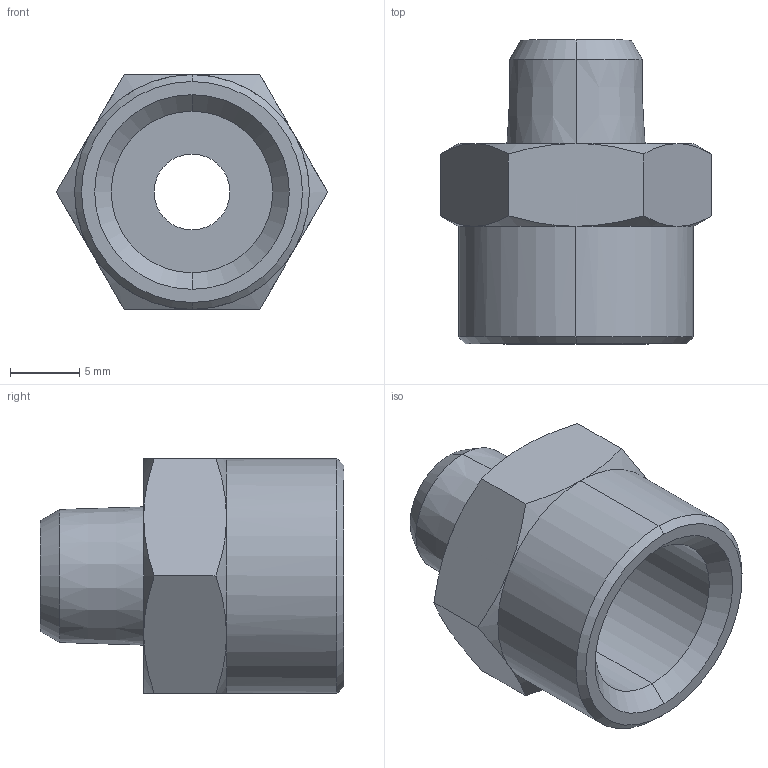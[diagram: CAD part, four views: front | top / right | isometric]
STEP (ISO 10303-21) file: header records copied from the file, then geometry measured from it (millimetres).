
FILE_DESCRIPTION (( 'STEP AP203' ), '1' );
FILE_NAME ('258489.STEP', '2016-05-04T12:29:44', ( '' ), ( '' ), 'SwSTEP 2.0', 'SolidWorks 2016', '' );
FILE_SCHEMA (( 'CONFIG_CONTROL_DESIGN' ));
Length unit declared in the file: millimetre
Products named in the file (1): 258489
Bounding box: 19.63 x 22 x 17 mm (x, y, z)
Volume: 2403 mm3; surface area: 2010.7 mm2
Topology: 1 solids, 1 shells, 43 faces, 103 edges, 64 vertices
Faces by surface type: cone 22, plane 15, cylinder 6
Entity records: 1569 total; most frequent: CARTESIAN_POINT 550, ORIENTED_EDGE 206, DIRECTION 177, EDGE_CURVE 103, AXIS2_PLACEMENT_3D 72, VERTEX_POINT 64, EDGE_LOOP 47, ADVANCED_FACE 43
